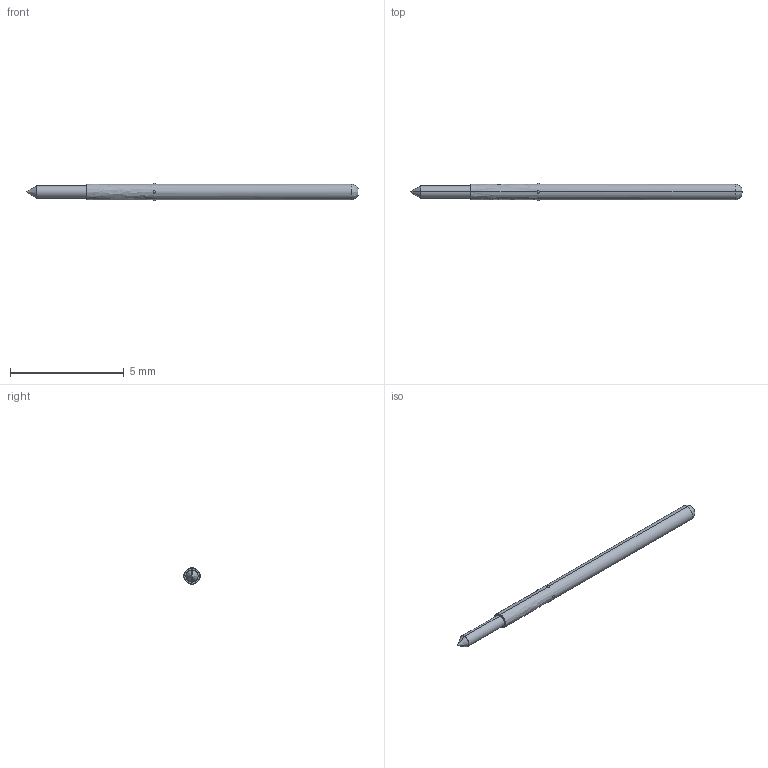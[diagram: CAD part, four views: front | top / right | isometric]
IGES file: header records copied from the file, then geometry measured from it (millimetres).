
Start section: SolidWorks IGES file using analytic representation for surfaces
Global section: file name: O:\PYLON\IGES FILES\P2662B\P2662B-1C1S.IGS; native system: SolidWorks 2015; preprocessor: SolidWorks 2015; author: kgolden; date: 171019.092630; units: inch
Bounding box: 14.57 x 0.79 x 0.79 mm (x, y, z)
Surface area: 32.6 mm2 (no closed solid volume)
Topology: 0 solids, 0 shells, 20 faces, 184 edges, 166 vertices
Faces by surface type: revolution 16, bspline 4
